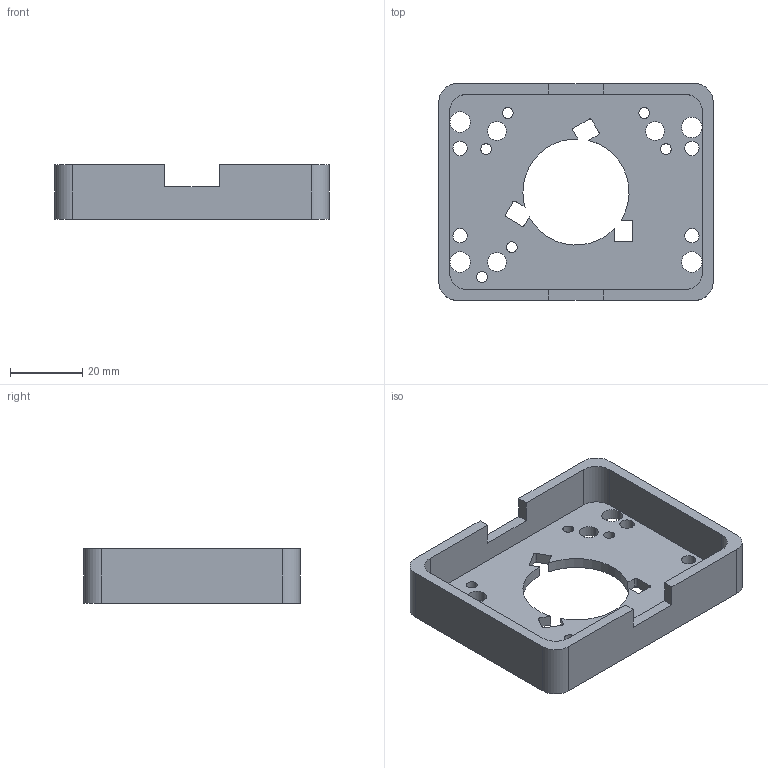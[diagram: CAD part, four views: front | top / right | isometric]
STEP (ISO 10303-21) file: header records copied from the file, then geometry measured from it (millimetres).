
FILE_DESCRIPTION (( 'STEP AP203' ), '1' );
FILE_NAME ('FIxed box.step', '2026-06-05T03:33:00', ( '' ), ( '' ), 'SwSTEP 2.0', 'SolidWorks 2024', '' );
FILE_SCHEMA (( 'CONFIG_CONTROL_DESIGN' ));
Length unit declared in the file: millimetre
Products named in the file (1): FIxed box
Bounding box: 76 x 60 x 15 mm (x, y, z)
Volume: 19079.9 mm3; surface area: 14658.1 mm2
Topology: 1 solids, 1 shells, 86 faces, 252 edges, 168 vertices
Faces by surface type: cylinder 56, plane 30
Entity records: 3057 total; most frequent: DIRECTION 538, CARTESIAN_POINT 507, ORIENTED_EDGE 504, EDGE_CURVE 252, AXIS2_PLACEMENT_3D 199, VERTEX_POINT 168, VECTOR 140, LINE 140
